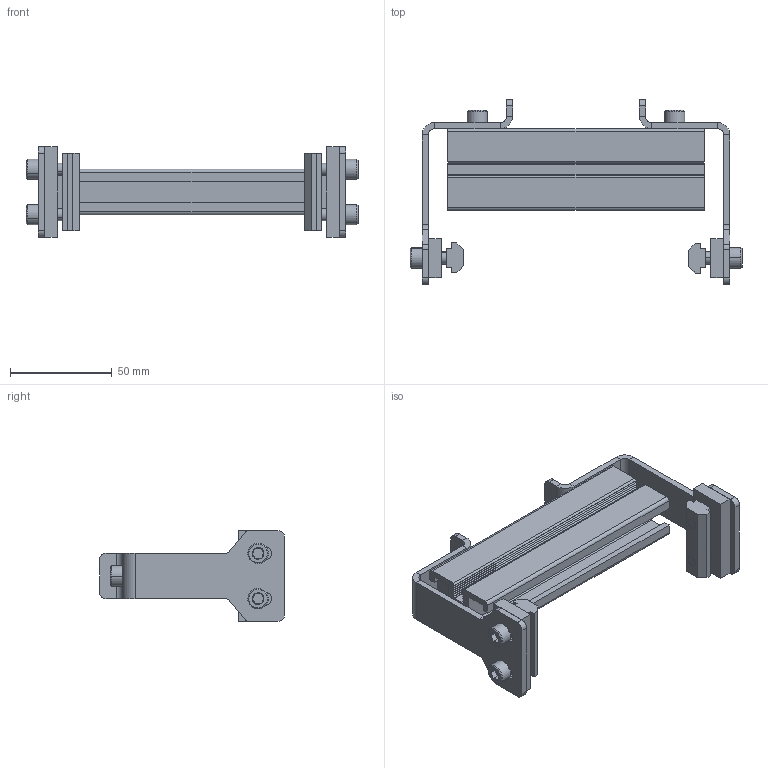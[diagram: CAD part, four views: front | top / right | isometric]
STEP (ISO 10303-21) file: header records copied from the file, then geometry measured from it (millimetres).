
FILE_DESCRIPTION (( 'STEP AP203' ), '1' );
FILE_NAME ('207137-05.STEP', '2023-03-01T21:15:27', ( '' ), ( '' ), 'SwSTEP 2.0', 'SolidWorks 2020', '' );
FILE_SCHEMA (( 'CONFIG_CONTROL_DESIGN' ));
Length unit declared in the file: inch
Products named in the file (8): 639971M_CAE; 207135-WW_207135-05; 200626M; 9206XXM_920620M; 202444; 207134; 207137-05; 9206XXM_920614M
Assembly tree (15 placements, depth 2):
  207137-05
    207134  x2
    207135-WW_207135-05
    202444  x2
    200626M  x2
    639971M_CAE  x2
    9206XXM_920614M  x2
    9206XXM_920620M  x4
Bounding box: 162.77 x 90.68 x 44.45 mm (x, y, z)
Volume: 96050.9 mm3; surface area: 62295.6 mm2
Topology: 15 solids, 15 shells, 432 faces, 1042 edges, 652 vertices
Faces by surface type: plane 258, cylinder 108, cone 66
Entity records: 8328 total; most frequent: CARTESIAN_POINT 1374, DIRECTION 1230, ORIENTED_EDGE 1212, EDGE_CURVE 606, LINE 462, VECTOR 462, VERTEX_POINT 388, AXIS2_PLACEMENT_3D 384
